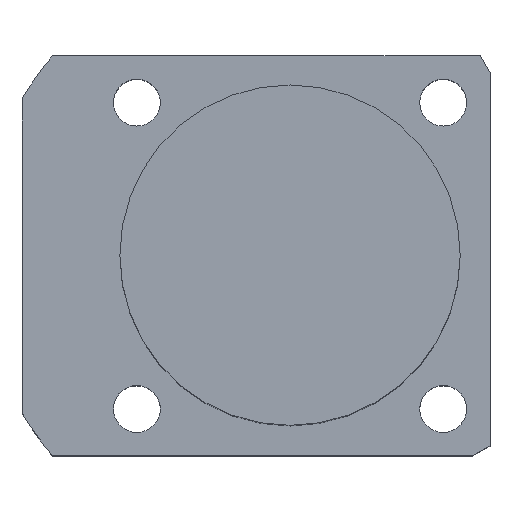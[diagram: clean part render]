
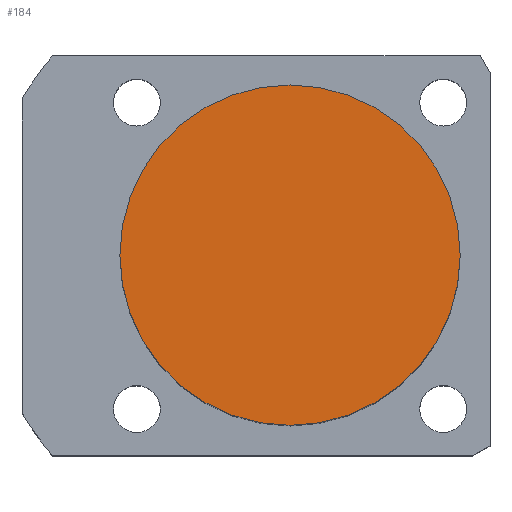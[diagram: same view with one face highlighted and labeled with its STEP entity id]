
A CAD part, top view. The second image highlights one B-rep face of the part: STEP entity #184.
In plain terms, the highlighted planar face has unit normal (0, 0, 1).
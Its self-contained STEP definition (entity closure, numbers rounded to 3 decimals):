
#22 = PLANE ( 'NONE',  #156 ) ;
#156 = AXIS2_PLACEMENT_3D ( 'NONE', #1651, #1488, #588 ) ;
#163 = DIRECTION ( 'NONE',  ( 1., 0., 0. ) ) ;
#184 = ADVANCED_FACE ( 'NONE', ( #1520 ), #22, .T. ) ;
#231 = CARTESIAN_POINT ( 'NONE',  ( 0., 0., 56.5 ) ) ;
#364 = VERTEX_POINT ( 'NONE', #1397 ) ;
#400 = CIRCLE ( 'NONE', #886, 20. ) ;
#425 = ORIENTED_EDGE ( 'NONE', *, *, #941, .T. ) ;
#518 = DIRECTION ( 'NONE',  ( 0., 0., 1. ) ) ;
#588 = DIRECTION ( 'NONE',  ( 1., 0., 0. ) ) ;
#590 = DIRECTION ( 'NONE',  ( 0., 0., 1. ) ) ;
#597 = CARTESIAN_POINT ( 'NONE',  ( 0., 0., 56.5 ) ) ;
#800 = DIRECTION ( 'NONE',  ( 1., 0., 0. ) ) ;
#886 = AXIS2_PLACEMENT_3D ( 'NONE', #231, #518, #800 ) ;
#941 = EDGE_CURVE ( 'NONE', #364, #1645, #400, .T. ) ;
#1294 = ORIENTED_EDGE ( 'NONE', *, *, #1340, .T. ) ;
#1310 = CIRCLE ( 'NONE', #1418, 20. ) ;
#1314 = EDGE_LOOP ( 'NONE', ( #425, #1294 ) ) ;
#1340 = EDGE_CURVE ( 'NONE', #1645, #364, #1310, .T. ) ;
#1397 = CARTESIAN_POINT ( 'NONE',  ( -20., 0., 56.5 ) ) ;
#1418 = AXIS2_PLACEMENT_3D ( 'NONE', #597, #590, #163 ) ;
#1488 = DIRECTION ( 'NONE',  ( 0., 0., 1. ) ) ;
#1520 = FACE_OUTER_BOUND ( 'NONE', #1314, .T. ) ;
#1645 = VERTEX_POINT ( 'NONE', #1860 ) ;
#1651 = CARTESIAN_POINT ( 'NONE',  ( 0., 0., 56.5 ) ) ;
#1860 = CARTESIAN_POINT ( 'NONE',  ( 20., 0., 56.5 ) ) ;
